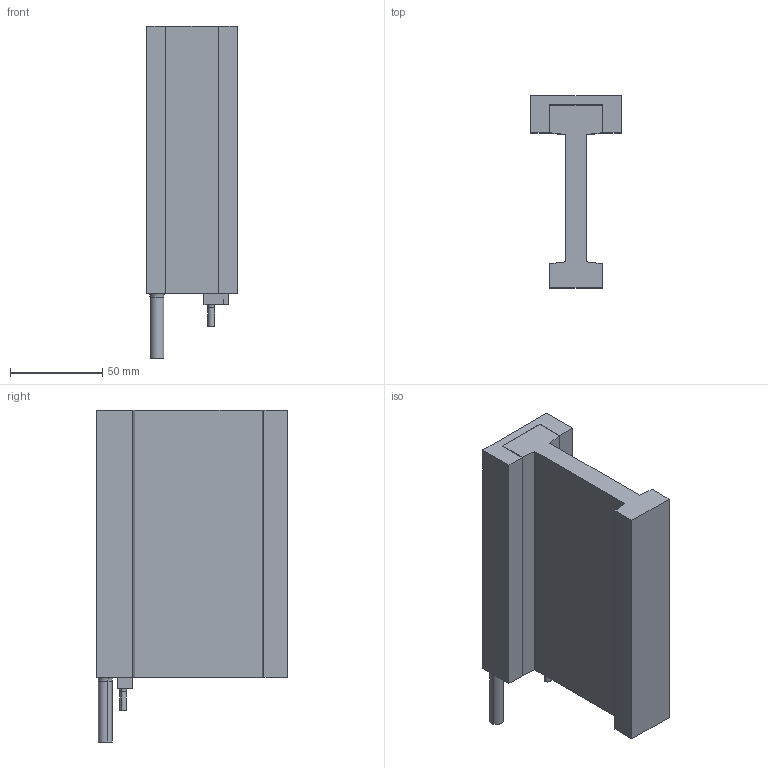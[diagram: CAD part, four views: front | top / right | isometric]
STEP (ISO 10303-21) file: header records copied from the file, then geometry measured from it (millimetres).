
FILE_DESCRIPTION (( 'STEP AP214' ), '1' );
FILE_NAME ('DX65F-C2.step', '2022-09-22T03:37:28', ( '' ), ( '' ), 'SwSTEP 2.0', 'SolidWorks 2020', '' );
FILE_SCHEMA (( 'AUTOMOTIVE_DESIGN' ));
Length unit declared in the file: millimetre
Products named in the file (1): DX65F-C2
Bounding box: 49 x 104 x 180 mm (x, y, z)
Volume: 312248.3 mm3; surface area: 74511.2 mm2
Topology: 7 solids, 7 shells, 158 faces, 360 edges, 215 vertices
Faces by surface type: plane 80, cylinder 44, cone 26, torus 8
Entity records: 6166 total; most frequent: CARTESIAN_POINT 784, DIRECTION 774, ORIENTED_EDGE 684, EDGE_CURVE 342, AXIS2_PLACEMENT_3D 277, VECTOR 220, LINE 220, VERTEX_POINT 215
